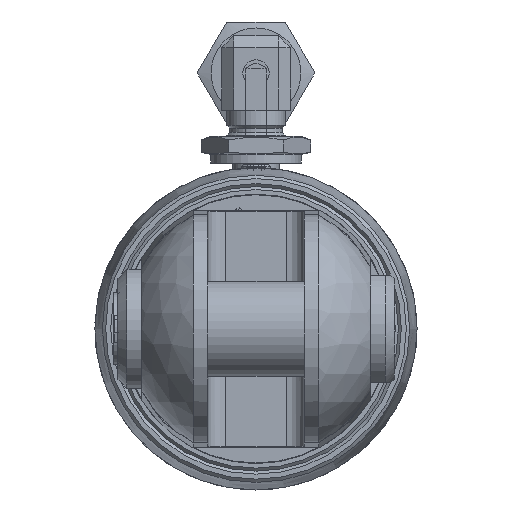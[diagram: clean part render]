
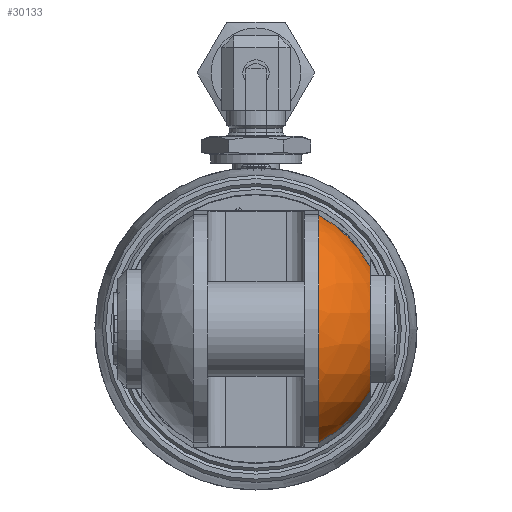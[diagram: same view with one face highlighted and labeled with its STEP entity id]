
A CAD part, left-side view. The second image highlights one B-rep face of the part: STEP entity #30133.
In plain terms, the highlighted spherical face has radius 21.732 mm.
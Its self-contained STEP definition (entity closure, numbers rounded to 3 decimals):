
#21=SPHERICAL_SURFACE('',#31284,21.732);
#2188=CIRCLE('',#31259,10.447);
#2198=CIRCLE('',#31273,21.729);
#2201=CIRCLE('',#31285,21.729);
#2202=CIRCLE('',#31286,19.056);
#3769=FACE_OUTER_BOUND('',#5504,.T.);
#5504=EDGE_LOOP('',(#25289,#25290,#25291,#25292));
#13596=VERTEX_POINT('',#53907);
#13597=VERTEX_POINT('',#53911);
#13615=VERTEX_POINT('',#53967);
#13632=VERTEX_POINT('',#54021);
#17545=EDGE_CURVE('',#13597,#13596,#2188,.T.);
#17567=EDGE_CURVE('',#13597,#13615,#2198,.T.);
#17590=EDGE_CURVE('',#13632,#13596,#2201,.T.);
#17591=EDGE_CURVE('',#13632,#13615,#2202,.T.);
#25289=ORIENTED_EDGE('',*,*,#17545,.T.);
#25290=ORIENTED_EDGE('',*,*,#17590,.F.);
#25291=ORIENTED_EDGE('',*,*,#17591,.T.);
#25292=ORIENTED_EDGE('',*,*,#17567,.F.);
#30133=ADVANCED_FACE('',(#3769),#21,.T.);
#31259=AXIS2_PLACEMENT_3D('',#53912,#35773,#35774);
#31273=AXIS2_PLACEMENT_3D('',#53968,#35807,#35808);
#31284=AXIS2_PLACEMENT_3D('',#54020,#35842,#35843);
#31285=AXIS2_PLACEMENT_3D('',#54022,#35844,#35845);
#31286=AXIS2_PLACEMENT_3D('',#54023,#35846,#35847);
#35773=DIRECTION('center_axis',(0.,1.,0.));
#35774=DIRECTION('ref_axis',(0.,0.,
1.));
#35807=DIRECTION('center_axis',(1.,0.,0.));
#35808=DIRECTION('ref_axis',(0.,0.,
1.));
#35842=DIRECTION('center_axis',(0.,0.,1.));
#35843=DIRECTION('ref_axis',(-1.,0.,0.));
#35844=DIRECTION('center_axis',(1.,0.,0.));
#35845=DIRECTION('ref_axis',(0.,0.,
1.));
#35846=DIRECTION('center_axis',(0.,-1.,0.));
#35847=DIRECTION('ref_axis',(-0.018,0.,1.));
#53907=CARTESIAN_POINT('',(-1483.135,-19.056,10.441));
#53911=CARTESIAN_POINT('',(-1483.135,-19.056,-10.441));
#53912=CARTESIAN_POINT('Origin',(-1482.768,-19.056,0.));
#53967=CARTESIAN_POINT('',(-1483.135,-10.447,-19.052));
#53968=CARTESIAN_POINT('Origin',(-1483.135,0.,
0.));
#54020=CARTESIAN_POINT('Origin',(-1482.768,0.,0.));
#54021=CARTESIAN_POINT('',(-1483.135,-10.447,19.052));
#54022=CARTESIAN_POINT('Origin',(-1483.135,0.,
0.));
#54023=CARTESIAN_POINT('Origin',(-1482.768,-10.447,0.));
